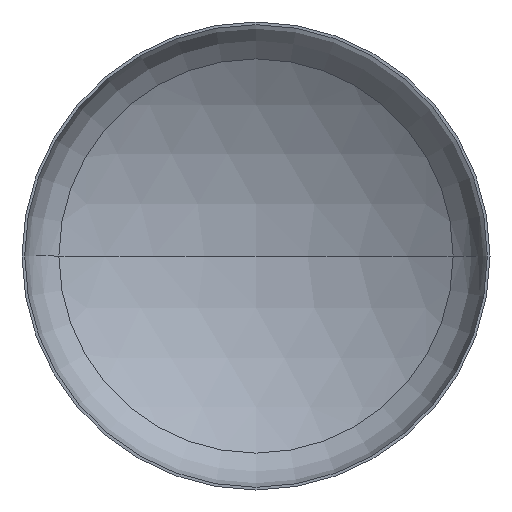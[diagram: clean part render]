
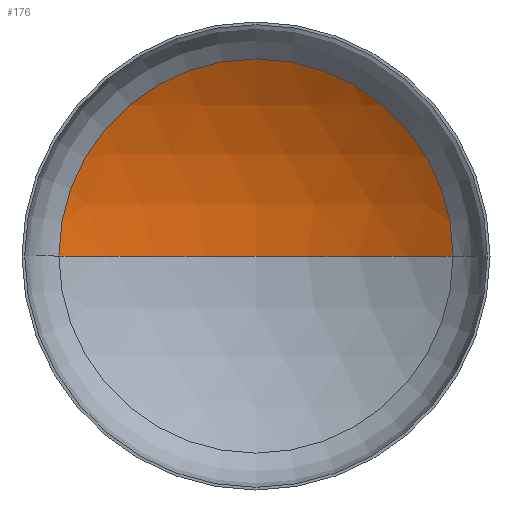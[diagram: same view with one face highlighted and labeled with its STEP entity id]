
A CAD part, front view. The second image highlights one B-rep face of the part: STEP entity #176.
In plain terms, the highlighted spherical face has radius 2880 mm.
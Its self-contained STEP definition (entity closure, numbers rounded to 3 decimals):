
#5 = EDGE_LOOP ( 'NONE', ( #109, #103, #82 ) ) ;
#10 = CARTESIAN_POINT ( 'NONE',  ( 0., -1906.727, 0. ) ) ;
#20 = AXIS2_PLACEMENT_3D ( 'NONE', #171, #146, #172 ) ;
#23 = VERTEX_POINT ( 'NONE', #290 ) ;
#26 = VERTEX_POINT ( 'NONE', #288 ) ;
#33 = AXIS2_PLACEMENT_3D ( 'NONE', #195, #381, #248 ) ;
#42 = AXIS2_PLACEMENT_3D ( 'NONE', #184, #178, #179 ) ;
#66 = AXIS2_PLACEMENT_3D ( 'NONE', #10, #302, #155 ) ;
#82 = ORIENTED_EDGE ( 'NONE', *, *, #363, .T. ) ;
#103 = ORIENTED_EDGE ( 'NONE', *, *, #339, .T. ) ;
#109 = ORIENTED_EDGE ( 'NONE', *, *, #351, .F. ) ;
#143 = VERTEX_POINT ( 'NONE', #308 ) ;
#146 = DIRECTION ( 'NONE',  ( 0., -1., 0. ) ) ;
#155 = DIRECTION ( 'NONE',  ( -1., 0., 0. ) ) ;
#171 = CARTESIAN_POINT ( 'NONE',  ( 0., 541.864, 0. ) ) ;
#172 = DIRECTION ( 'NONE',  ( 1., 0., 0. ) ) ;
#176 = ADVANCED_FACE ( 'NONE', ( #372 ), #318, .F. ) ;
#178 = DIRECTION ( 'NONE',  ( 0., 0., -1. ) ) ;
#179 = DIRECTION ( 'NONE',  ( -1., 0., 0. ) ) ;
#184 = CARTESIAN_POINT ( 'NONE',  ( 0., -1906.727, 0. ) ) ;
#195 = CARTESIAN_POINT ( 'NONE',  ( 0., -1906.727, 0. ) ) ;
#224 = CIRCLE ( 'NONE', #42, 2880. ) ;
#248 = DIRECTION ( 'NONE',  ( 1., 0., 0. ) ) ;
#288 = CARTESIAN_POINT ( 'NONE',  ( 1516.181, 541.864, 0. ) ) ;
#290 = CARTESIAN_POINT ( 'NONE',  ( 0., 973.273, 0. ) ) ;
#302 = DIRECTION ( 'NONE',  ( 0., 0., -1. ) ) ;
#308 = CARTESIAN_POINT ( 'NONE',  ( -1516.181, 541.864, 0. ) ) ;
#318 = SPHERICAL_SURFACE ( 'NONE', #66, 2880. ) ;
#333 = CIRCLE ( 'NONE', #20, 1516.181 ) ;
#339 = EDGE_CURVE ( 'NONE', #23, #26, #224, .T. ) ;
#351 = EDGE_CURVE ( 'NONE', #23, #143, #396, .T. ) ;
#363 = EDGE_CURVE ( 'NONE', #26, #143, #333, .T. ) ;
#372 = FACE_OUTER_BOUND ( 'NONE', #5, .T. ) ;
#381 = DIRECTION ( 'NONE',  ( 0., 0., 1. ) ) ;
#396 = CIRCLE ( 'NONE', #33, 2880. ) ;
